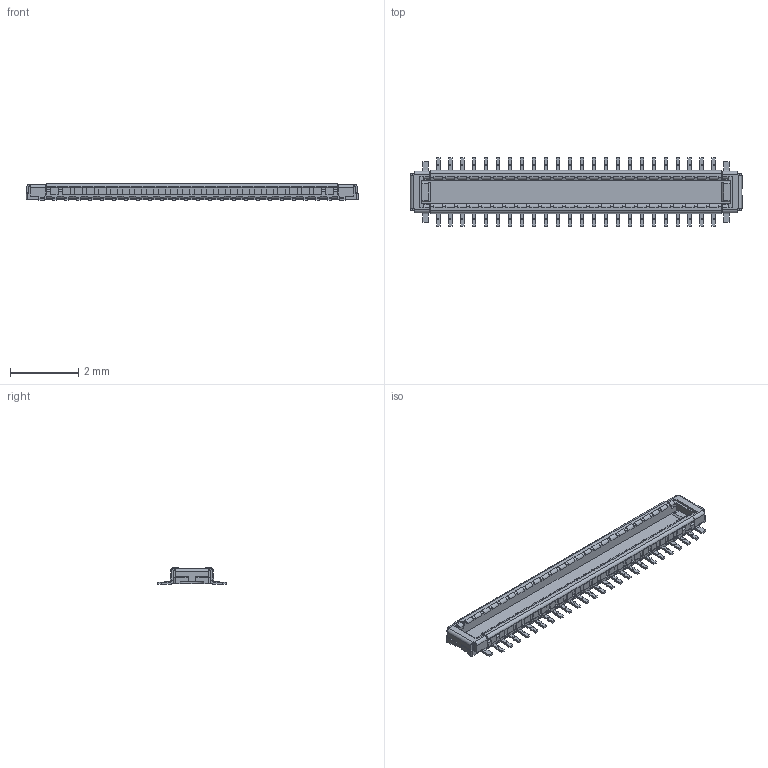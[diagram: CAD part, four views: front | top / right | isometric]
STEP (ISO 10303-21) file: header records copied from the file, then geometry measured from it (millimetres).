
FILE_DESCRIPTION(/* description */ (''),/* implementation_level */ '2;1');
FILE_NAME(/* name */ '5050704822wbm000_01_214.stp',/* time_stamp */ '2022-01-13T16:15:13+06:00',/* author */ (''),/* organization */ (''),/* preprocessor_version */ 'ST-DEVELOPER v16.7',/* originating_system */ 'SIEMENS PLM Software NX 1919',/* authorisation */ '');
FILE_SCHEMA (('AUTOMOTIVE_DESIGN { 1 0 10303 214 3 1 1 1 }'));
Length unit declared in the file: millimetre
Products named in the file (1): 5050704822wbm000_01
Bounding box: 9.71 x 2 x 0.48 mm (x, y, z)
Volume: 3.2 mm3; surface area: 48.1 mm2
Topology: 1 solids, 1 shells, 1338 faces, 3788 edges, 2452 vertices
Faces by surface type: plane 1138, cylinder 200
Entity records: 42584 total; most frequent: CARTESIAN_POINT 7599, ORIENTED_EDGE 7576, DIRECTION 6878, EDGE_CURVE 3788, LINE 3368, VECTOR 3368, VERTEX_POINT 2452, AXIS2_PLACEMENT_3D 1755
